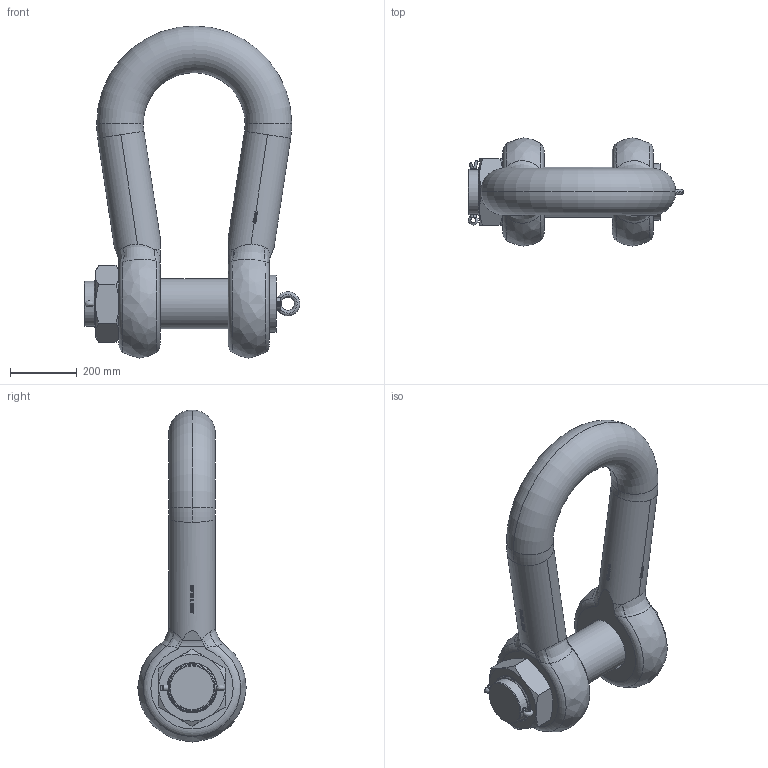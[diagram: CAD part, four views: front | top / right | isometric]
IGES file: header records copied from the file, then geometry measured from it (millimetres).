
Global section: file name: No Iges File Name specified; native system: Autodesk Inventor 2009; preprocessor: AutoDesk Inventor Iges Exporter R2009; author: Jack; date: 20091212.143858; units: millimetre
Bounding box: 646.2 x 325 x 995.5 mm (x, y, z)
Volume: 47620505.5 mm3; surface area: 1678025.5 mm2
Topology: 5 solids, 5 shells, 842 faces, 2260 edges, 1483 vertices
Faces by surface type: plane 394, bspline 263, cylinder 107, revolution 36, torus 22, cone 20
Full cylindrical faces by diameter (mm): 150 x14
